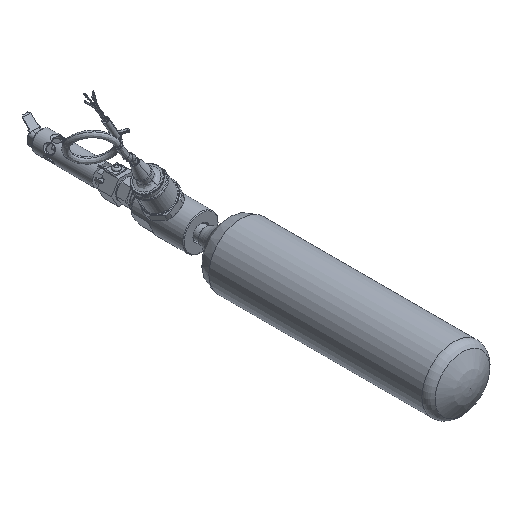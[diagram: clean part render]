
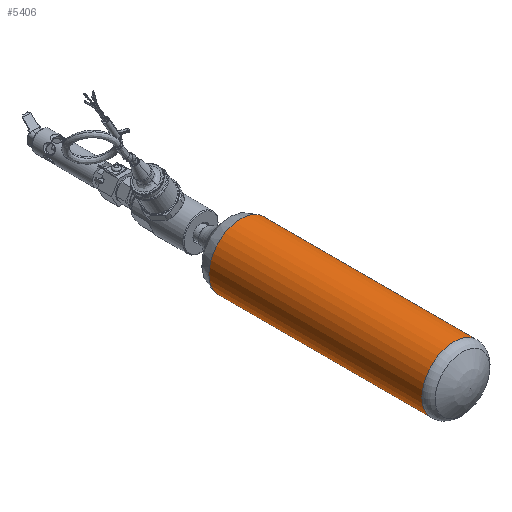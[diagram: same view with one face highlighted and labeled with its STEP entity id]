
A CAD part, isometric view. The second image highlights one B-rep face of the part: STEP entity #5406.
In plain terms, the highlighted cylindrical face has radius 25.4 mm (diameter 50.8 mm), a full revolution.
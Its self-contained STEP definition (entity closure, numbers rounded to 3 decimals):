
#524=CYLINDRICAL_SURFACE('',#5769,25.4);
#716=CIRCLE('',#5767,25.4);
#717=CIRCLE('',#5768,25.4);
#718=CIRCLE('',#5770,25.4);
#719=CIRCLE('',#5771,25.4);
#1003=FACE_OUTER_BOUND('',#1317,.T.);
#1317=EDGE_LOOP('',(#4543,#4544,#4545,#4546,#4547,#4548));
#1592=LINE('',#17421,#1852);
#1852=VECTOR('',#6681,25.4);
#2329=VERTEX_POINT('',#17414);
#2330=VERTEX_POINT('',#17416);
#2331=VERTEX_POINT('',#17420);
#2332=VERTEX_POINT('',#17422);
#3083=EDGE_CURVE('',#2329,#2330,#716,.T.);
#3084=EDGE_CURVE('',#2330,#2329,#717,.T.);
#3085=EDGE_CURVE('',#2330,#2331,#1592,.T.);
#3086=EDGE_CURVE('',#2331,#2332,#718,.T.);
#3087=EDGE_CURVE('',#2332,#2331,#719,.T.);
#4543=ORIENTED_EDGE('',*,*,#3083,.F.);
#4544=ORIENTED_EDGE('',*,*,#3084,.F.);
#4545=ORIENTED_EDGE('',*,*,#3085,.T.);
#4546=ORIENTED_EDGE('',*,*,#3086,.T.);
#4547=ORIENTED_EDGE('',*,*,#3087,.T.);
#4548=ORIENTED_EDGE('',*,*,#3085,.F.);
#5406=ADVANCED_FACE('',(#1003),#524,.T.);
#5767=AXIS2_PLACEMENT_3D('',#17417,#6675,#6676);
#5768=AXIS2_PLACEMENT_3D('',#17418,#6677,#6678);
#5769=AXIS2_PLACEMENT_3D('',#17419,#6679,#6680);
#5770=AXIS2_PLACEMENT_3D('',#17423,#6682,#6683);
#5771=AXIS2_PLACEMENT_3D('',#17424,#6684,#6685);
#6675=DIRECTION('center_axis',(0.,1.,0.));
#6676=DIRECTION('ref_axis',(1.,0.,0.));
#6677=DIRECTION('center_axis',(0.,1.,0.));
#6678=DIRECTION('ref_axis',(1.,0.,0.));
#6679=DIRECTION('center_axis',(0.,1.,0.));
#6680=DIRECTION('ref_axis',(-1.,0.,0.));
#6681=DIRECTION('',(0.,-1.,0.));
#6682=DIRECTION('center_axis',(0.,1.,0.));
#6683=DIRECTION('ref_axis',(1.,0.,0.));
#6684=DIRECTION('center_axis',(0.,1.,0.));
#6685=DIRECTION('ref_axis',(1.,0.,0.));
#17414=CARTESIAN_POINT('',(0.,182.384,-25.4));
#17416=CARTESIAN_POINT('',(25.4,182.384,0.));
#17417=CARTESIAN_POINT('Origin',(0.,182.384,
0.));
#17418=CARTESIAN_POINT('Origin',(0.,182.384,
0.));
#17419=CARTESIAN_POINT('Origin',(0.,166.227,
0.));
#17420=CARTESIAN_POINT('',(25.4,13.211,0.));
#17421=CARTESIAN_POINT('',(25.4,166.227,0.));
#17422=CARTESIAN_POINT('',(0.,13.211,-25.4));
#17423=CARTESIAN_POINT('Origin',(0.,13.211,
0.));
#17424=CARTESIAN_POINT('Origin',(0.,13.211,
0.));
